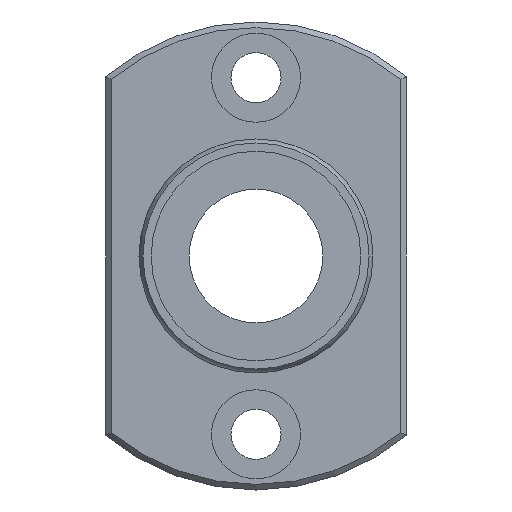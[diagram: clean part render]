
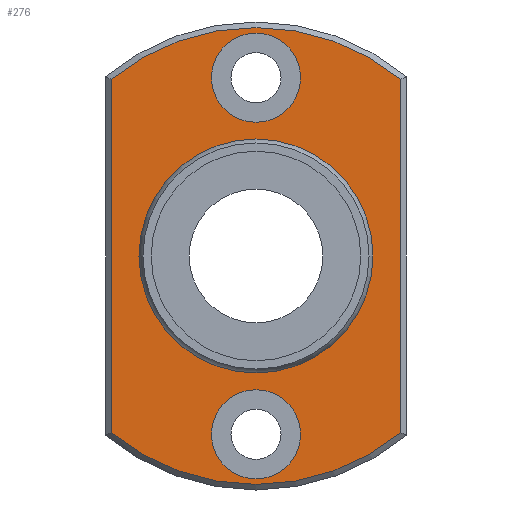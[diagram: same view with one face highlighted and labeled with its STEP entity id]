
A CAD part, left-side view. The second image highlights one B-rep face of the part: STEP entity #276.
In plain terms, the highlighted planar face has unit normal (-1, 0, 0).
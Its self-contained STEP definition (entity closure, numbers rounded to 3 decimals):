
#59=CARTESIAN_POINT('',(25.5,-13.,15.851));
#60=VERTEX_POINT('',#59);
#68=CARTESIAN_POINT('',(25.5,-13.,-15.851));
#69=VERTEX_POINT('',#68);
#70=CARTESIAN_POINT('',(25.5,-13.,15.851));
#71=DIRECTION('',(0.0,0.0,-1.0));
#72=VECTOR('',#71,31.702);
#73=LINE('',#70,#72);
#74=EDGE_CURVE('',#60,#69,#73,.T.);
#101=CARTESIAN_POINT('',(25.5,13.,-15.851));
#102=VERTEX_POINT('',#101);
#103=CARTESIAN_POINT('',(25.5,0.0,0.0));
#104=DIRECTION('',(1.0,0.0,0.0));
#105=DIRECTION('',(0.0,0.0,-1.0));
#106=AXIS2_PLACEMENT_3D('',#103,#104,#105);
#107=CIRCLE('',#106,20.5);
#108=EDGE_CURVE('',#69,#102,#107,.T.);
#134=CARTESIAN_POINT('',(25.5,13.,15.851));
#135=VERTEX_POINT('',#134);
#136=CARTESIAN_POINT('',(25.5,13.,-15.851));
#137=DIRECTION('',(0.0,0.0,1.0));
#138=VECTOR('',#137,31.702);
#139=LINE('',#136,#138);
#140=EDGE_CURVE('',#102,#135,#139,.T.);
#165=CARTESIAN_POINT('',(25.5,0.0,0.0));
#166=DIRECTION('',(1.0,0.0,0.0));
#167=DIRECTION('',(0.0,0.0,1.0));
#168=AXIS2_PLACEMENT_3D('',#165,#166,#167);
#169=CIRCLE('',#168,20.5);
#170=EDGE_CURVE('',#135,#60,#169,.T.);
#232=CARTESIAN_POINT('',(25.5,0.0,15.643));
#233=DIRECTION('',(-1.0,0.0,0.0));
#234=DIRECTION('',(0.0,0.0,1.0));
#235=AXIS2_PLACEMENT_3D('',#232,#233,#234);
#236=PLANE('',#235);
#237=ORIENTED_EDGE('',*,*,#74,.F.);
#238=ORIENTED_EDGE('',*,*,#170,.F.);
#239=ORIENTED_EDGE('',*,*,#140,.F.);
#240=ORIENTED_EDGE('',*,*,#108,.F.);
#241=EDGE_LOOP('',(#237,#238,#239,#240));
#242=FACE_OUTER_BOUND('',#241,.T.);
#243=CARTESIAN_POINT('',(25.5,0.0,10.286));
#244=VERTEX_POINT('',#243);
#245=CARTESIAN_POINT('',(25.5,0.0,0.0));
#246=DIRECTION('',(-1.0,0.0,0.0));
#247=DIRECTION('',(0.0,0.0,1.0));
#248=AXIS2_PLACEMENT_3D('',#245,#246,#247);
#249=CIRCLE('',#248,10.286);
#250=EDGE_CURVE('',#244,#244,#249,.T.);
#251=ORIENTED_EDGE('',*,*,#250,.F.);
#252=EDGE_LOOP('',(#251));
#253=FACE_BOUND('',#252,.T.);
#254=CARTESIAN_POINT('',(25.5,4.,-16.0));
#255=VERTEX_POINT('',#254);
#256=CARTESIAN_POINT('',(25.5,0.,-16.0));
#257=DIRECTION('',(1.0,0.0,0.0));
#258=DIRECTION('',(0.0,1.0,0.0));
#259=AXIS2_PLACEMENT_3D('',#256,#257,#258);
#260=CIRCLE('',#259,4.0);
#261=EDGE_CURVE('',#255,#255,#260,.T.);
#262=ORIENTED_EDGE('',*,*,#261,.T.);
#263=EDGE_LOOP('',(#262));
#264=FACE_BOUND('',#263,.T.);
#265=CARTESIAN_POINT('',(25.5,4.,16.0));
#266=VERTEX_POINT('',#265);
#267=CARTESIAN_POINT('',(25.5,0.,16.0));
#268=DIRECTION('',(1.0,0.0,0.0));
#269=DIRECTION('',(0.0,1.0,0.0));
#270=AXIS2_PLACEMENT_3D('',#267,#268,#269);
#271=CIRCLE('',#270,4.0);
#272=EDGE_CURVE('',#266,#266,#271,.T.);
#273=ORIENTED_EDGE('',*,*,#272,.T.);
#274=EDGE_LOOP('',(#273));
#275=FACE_BOUND('',#274,.T.);
#276=ADVANCED_FACE('',(#242,#253,#264,#275),#236,.T.);
